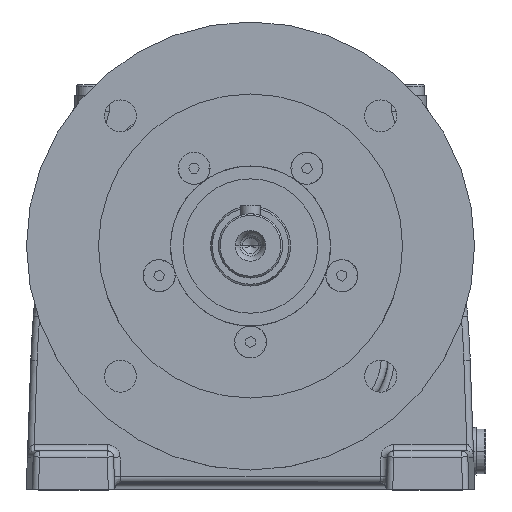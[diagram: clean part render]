
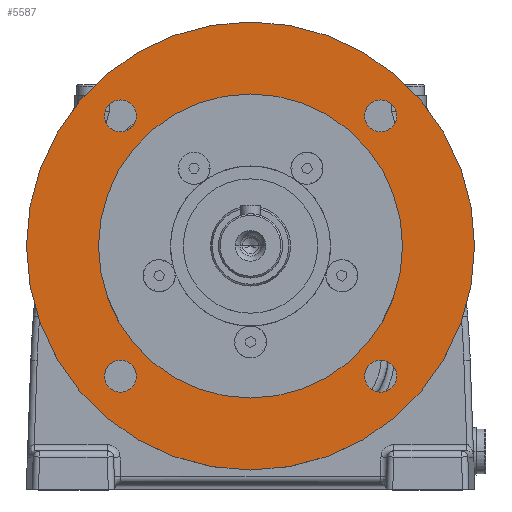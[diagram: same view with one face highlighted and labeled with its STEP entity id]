
A CAD part, top view. The second image highlights one B-rep face of the part: STEP entity #5587.
In plain terms, the highlighted planar face has unit normal (0, 0, 1).
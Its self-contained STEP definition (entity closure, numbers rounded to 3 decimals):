
#5398 = VERTEX_POINT ( 'NONE', #30926 ) ;
#5405 = VERTEX_POINT ( 'NONE', #30921 ) ;
#5547 = EDGE_CURVE ( 'NONE', #5549, #5552, #31066, .T. ) ;
#5549 = VERTEX_POINT ( 'NONE', #31061 ) ;
#5552 = VERTEX_POINT ( 'NONE', #31060 ) ;
#5587 = ADVANCED_FACE ( 'NONE', ( #31042, #31041, #31040, #31039, #31038, #31037 ), #31139, .F. ) ;
#5594 = EDGE_LOOP ( 'NONE', ( #5886, #5793 ) ) ;
#5598 = EDGE_CURVE ( 'NONE', #5398, #5634, #31134, .T. ) ;
#5630 = VERTEX_POINT ( 'NONE', #31164 ) ;
#5632 = VERTEX_POINT ( 'NONE', #31163 ) ;
#5634 = VERTEX_POINT ( 'NONE', #31162 ) ;
#5640 = EDGE_CURVE ( 'NONE', #5643, #5405, #31161, .T. ) ;
#5643 = VERTEX_POINT ( 'NONE', #31156 ) ;
#5724 = EDGE_CURVE ( 'NONE', #5630, #5632, #31235, .T. ) ;
#5747 = ORIENTED_EDGE ( 'NONE', *, *, #79570, .F. ) ;
#5749 = EDGE_LOOP ( 'NONE', ( #5753, #5751 ) ) ;
#5751 = ORIENTED_EDGE ( 'NONE', *, *, #5598, .F. ) ;
#5753 = ORIENTED_EDGE ( 'NONE', *, *, #5755, .F. ) ;
#5755 = EDGE_CURVE ( 'NONE', #5634, #5398, #31212, .T. ) ;
#5761 = EDGE_LOOP ( 'NONE', ( #5889, #5833 ) ) ;
#5764 = EDGE_CURVE ( 'NONE', #5405, #5643, #31208, .T. ) ;
#5768 = EDGE_LOOP ( 'NONE', ( #5891, #5951 ) ) ;
#5770 = ORIENTED_EDGE ( 'NONE', *, *, #5724, .F. ) ;
#5790 = EDGE_CURVE ( 'NONE', #79616, #79565, #31266, .T. ) ;
#5793 = ORIENTED_EDGE ( 'NONE', *, *, #79613, .F. ) ;
#5833 = ORIENTED_EDGE ( 'NONE', *, *, #5764, .T. ) ;
#5837 = EDGE_LOOP ( 'NONE', ( #5943, #5747 ) ) ;
#5839 = EDGE_CURVE ( 'NONE', #79573, #79607, #31246, .T. ) ;
#5886 = ORIENTED_EDGE ( 'NONE', *, *, #5790, .F. ) ;
#5889 = ORIENTED_EDGE ( 'NONE', *, *, #5640, .T. ) ;
#5891 = ORIENTED_EDGE ( 'NONE', *, *, #5547, .F. ) ;
#5943 = ORIENTED_EDGE ( 'NONE', *, *, #5839, .F. ) ;
#5945 = ORIENTED_EDGE ( 'NONE', *, *, #5948, .F. ) ;
#5948 = EDGE_CURVE ( 'NONE', #5632, #5630, #31369, .T. ) ;
#5951 = ORIENTED_EDGE ( 'NONE', *, *, #5954, .F. ) ;
#5954 = EDGE_CURVE ( 'NONE', #5552, #5549, #31364, .T. ) ;
#5958 = EDGE_LOOP ( 'NONE', ( #5945, #5770 ) ) ;
#30921 = CARTESIAN_POINT ( 'NONE',  ( -70., 0., -3. ) ) ;
#30926 = CARTESIAN_POINT ( 'NONE',  ( -45.659, -40.659, -3. ) ) ;
#31037 = FACE_BOUND ( 'NONE', #5958, .T. ) ;
#31038 = FACE_BOUND ( 'NONE', #5768, .T. ) ;
#31039 = FACE_OUTER_BOUND ( 'NONE', #5761, .T. ) ;
#31040 = FACE_BOUND ( 'NONE', #5749, .T. ) ;
#31041 = FACE_BOUND ( 'NONE', #5837, .T. ) ;
#31042 = FACE_BOUND ( 'NONE', #5594, .T. ) ;
#31060 = CARTESIAN_POINT ( 'NONE',  ( -47.5, 0., -3. ) ) ;
#31061 = CARTESIAN_POINT ( 'NONE',  ( 47.5, 0., -3. ) ) ;
#31062 = DIRECTION ( 'NONE',  ( 1., 0., 0. ) ) ;
#31063 = DIRECTION ( 'NONE',  ( 0., 0., 1. ) ) ;
#31064 = CARTESIAN_POINT ( 'NONE',  ( 0., 0., -3. ) ) ;
#31065 = AXIS2_PLACEMENT_3D ( 'NONE', #31064, #31063, #31062 ) ;
#31066 = CIRCLE ( 'NONE', #31065, 47.5 ) ;
#31130 = DIRECTION ( 'NONE',  ( 1., 0., 0. ) ) ;
#31131 = DIRECTION ( 'NONE',  ( 0., 0., 1. ) ) ;
#31132 = CARTESIAN_POINT ( 'NONE',  ( -40.659, -40.659, -3. ) ) ;
#31133 = AXIS2_PLACEMENT_3D ( 'NONE', #31132, #31131, #31130 ) ;
#31134 = CIRCLE ( 'NONE', #31133, 5. ) ;
#31135 = DIRECTION ( 'NONE',  ( -1., 0., 0. ) ) ;
#31136 = DIRECTION ( 'NONE',  ( 0., 0., -1. ) ) ;
#31137 = CARTESIAN_POINT ( 'NONE',  ( 0., 47.5, -3. ) ) ;
#31138 = AXIS2_PLACEMENT_3D ( 'NONE', #31137, #31136, #31135 ) ;
#31139 = PLANE ( 'NONE',  #31138 ) ;
#31156 = CARTESIAN_POINT ( 'NONE',  ( 70., 0., -3. ) ) ;
#31157 = DIRECTION ( 'NONE',  ( 1., 0., 0. ) ) ;
#31158 = DIRECTION ( 'NONE',  ( 0., 0., 1. ) ) ;
#31159 = CARTESIAN_POINT ( 'NONE',  ( 0., 0., -3. ) ) ;
#31160 = AXIS2_PLACEMENT_3D ( 'NONE', #31159, #31158, #31157 ) ;
#31161 = CIRCLE ( 'NONE', #31160, 70. ) ;
#31162 = CARTESIAN_POINT ( 'NONE',  ( -35.659, -40.659, -3. ) ) ;
#31163 = CARTESIAN_POINT ( 'NONE',  ( 45.659, -40.659, -3. ) ) ;
#31164 = CARTESIAN_POINT ( 'NONE',  ( 35.659, -40.659, -3. ) ) ;
#31208 = CIRCLE ( 'NONE', #31270, 70. ) ;
#31209 = DIRECTION ( 'NONE',  ( 1., 0., 0. ) ) ;
#31210 = DIRECTION ( 'NONE',  ( 0., 0., 1. ) ) ;
#31211 = AXIS2_PLACEMENT_3D ( 'NONE', #31217, #31210, #31209 ) ;
#31212 = CIRCLE ( 'NONE', #31211, 5. ) ;
#31217 = CARTESIAN_POINT ( 'NONE',  ( -40.659, -40.659, -3. ) ) ;
#31231 = DIRECTION ( 'NONE',  ( 1., 0., 0. ) ) ;
#31232 = DIRECTION ( 'NONE',  ( 0., 0., 1. ) ) ;
#31233 = CARTESIAN_POINT ( 'NONE',  ( 40.659, -40.659, -3. ) ) ;
#31234 = AXIS2_PLACEMENT_3D ( 'NONE', #31233, #31232, #31231 ) ;
#31235 = CIRCLE ( 'NONE', #31234, 5. ) ;
#31242 = DIRECTION ( 'NONE',  ( 1., 0., 0. ) ) ;
#31243 = DIRECTION ( 'NONE',  ( 0., 0., 1. ) ) ;
#31244 = CARTESIAN_POINT ( 'NONE',  ( -40.659, 40.659, -3. ) ) ;
#31245 = AXIS2_PLACEMENT_3D ( 'NONE', #31244, #31243, #31242 ) ;
#31246 = CIRCLE ( 'NONE', #31245, 5. ) ;
#31262 = DIRECTION ( 'NONE',  ( 1., 0., 0. ) ) ;
#31263 = DIRECTION ( 'NONE',  ( 0., 0., 1. ) ) ;
#31264 = CARTESIAN_POINT ( 'NONE',  ( 40.659, 40.659, -3. ) ) ;
#31265 = AXIS2_PLACEMENT_3D ( 'NONE', #31264, #31263, #31262 ) ;
#31266 = CIRCLE ( 'NONE', #31265, 5. ) ;
#31267 = DIRECTION ( 'NONE',  ( 1., 0., 0. ) ) ;
#31268 = DIRECTION ( 'NONE',  ( 0., 0., 1. ) ) ;
#31269 = CARTESIAN_POINT ( 'NONE',  ( 0., 0., -3. ) ) ;
#31270 = AXIS2_PLACEMENT_3D ( 'NONE', #31269, #31268, #31267 ) ;
#31360 = DIRECTION ( 'NONE',  ( 1., 0., 0. ) ) ;
#31361 = DIRECTION ( 'NONE',  ( 0., 0., 1. ) ) ;
#31362 = CARTESIAN_POINT ( 'NONE',  ( 0., 0., -3. ) ) ;
#31363 = AXIS2_PLACEMENT_3D ( 'NONE', #31362, #31361, #31360 ) ;
#31364 = CIRCLE ( 'NONE', #31363, 47.5 ) ;
#31365 = DIRECTION ( 'NONE',  ( 1., 0., 0. ) ) ;
#31366 = DIRECTION ( 'NONE',  ( 0., 0., 1. ) ) ;
#31367 = CARTESIAN_POINT ( 'NONE',  ( 40.659, -40.659, -3. ) ) ;
#31368 = AXIS2_PLACEMENT_3D ( 'NONE', #31367, #31366, #31365 ) ;
#31369 = CIRCLE ( 'NONE', #31368, 5. ) ;
#66458 = CARTESIAN_POINT ( 'NONE',  ( -35.659, 40.659, -3. ) ) ;
#66459 = DIRECTION ( 'NONE',  ( 1., 0., 0. ) ) ;
#66460 = DIRECTION ( 'NONE',  ( 0., 0., 1. ) ) ;
#66462 = CARTESIAN_POINT ( 'NONE',  ( -40.659, 40.659, -3. ) ) ;
#66464 = AXIS2_PLACEMENT_3D ( 'NONE', #66462, #66460, #66459 ) ;
#66466 = CIRCLE ( 'NONE', #66464, 5. ) ;
#66472 = CARTESIAN_POINT ( 'NONE',  ( 35.659, 40.659, -3. ) ) ;
#66504 = CARTESIAN_POINT ( 'NONE',  ( 45.659, 40.659, -3. ) ) ;
#66506 = DIRECTION ( 'NONE',  ( 1., 0., 0. ) ) ;
#66508 = DIRECTION ( 'NONE',  ( 0., 0., 1. ) ) ;
#66510 = CARTESIAN_POINT ( 'NONE',  ( 40.659, 40.659, -3. ) ) ;
#66511 = AXIS2_PLACEMENT_3D ( 'NONE', #66510, #66508, #66506 ) ;
#66513 = CIRCLE ( 'NONE', #66511, 5. ) ;
#66519 = CARTESIAN_POINT ( 'NONE',  ( -45.659, 40.659, -3. ) ) ;
#79565 = VERTEX_POINT ( 'NONE', #66472 ) ;
#79570 = EDGE_CURVE ( 'NONE', #79607, #79573, #66466, .T. ) ;
#79573 = VERTEX_POINT ( 'NONE', #66458 ) ;
#79607 = VERTEX_POINT ( 'NONE', #66519 ) ;
#79613 = EDGE_CURVE ( 'NONE', #79565, #79616, #66513, .T. ) ;
#79616 = VERTEX_POINT ( 'NONE', #66504 ) ;
